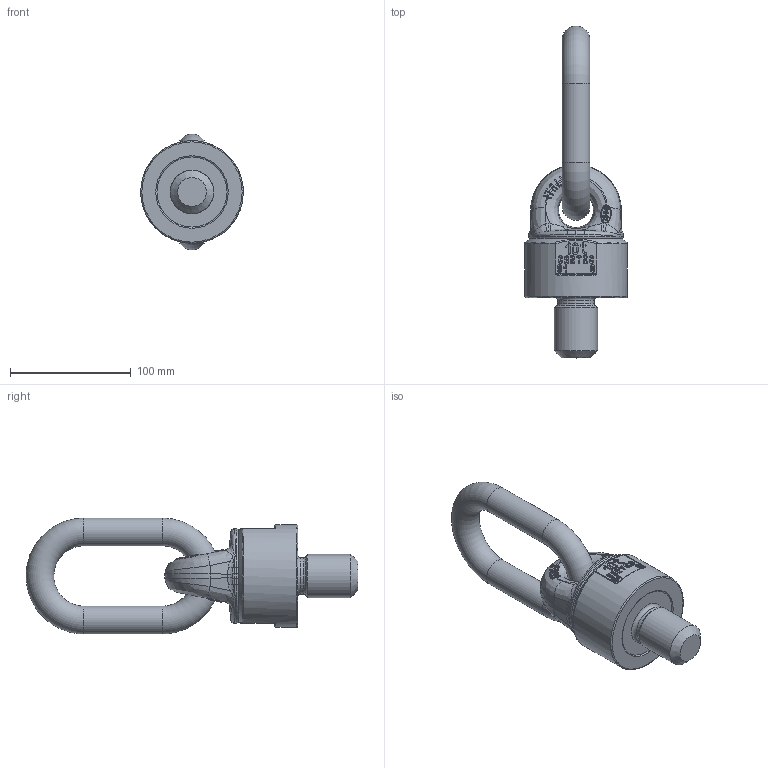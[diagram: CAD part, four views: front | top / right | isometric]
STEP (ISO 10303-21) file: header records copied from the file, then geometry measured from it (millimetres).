
FILE_DESCRIPTION(/* description */ (''),/* implementation_level */ '2;1');
FILE_NAME(/* name */ 'C8001003650V.stp',/* time_stamp */ '2019-02-15T09:06:02+01:00',/* author */ (''),/* organization */ (''),/* preprocessor_version */ 'ST-DEVELOPER v16',/* originating_system */ 'SIEMENS PLM Software NX 11.0',/* authorisation */ '');
FILE_SCHEMA (('AUTOMOTIVE_DESIGN { 1 0 10303 214 3 1 1 1 }'));
Length unit declared in the file: millimetre
Products named in the file (1): ugii0F54C622yhzb
Bounding box: 85 x 274.98 x 96 mm (x, y, z)
Volume: 579582.4 mm3; surface area: 75011.4 mm2
Topology: 3 solids, 3 shells, 771 faces, 2231 edges, 1693 vertices
Faces by surface type: bspline 268, cylinder 226, plane 207, torus 33, sphere 30, cone 7
Full cylindrical faces by diameter (mm): 23 x2, 29 x1, 30.3 x1, 36 x1, 85 x1
Entity records: 38311 total; most frequent: CARTESIAN_POINT 21001, ORIENTED_EDGE 3718, DIRECTION 2691, EDGE_CURVE 1859, VERTEX_POINT 1126, AXIS2_PLACEMENT_3D 1055, B_SPLINE_CURVE_WITH_KNOTS 1020, EDGE_LOOP 807
